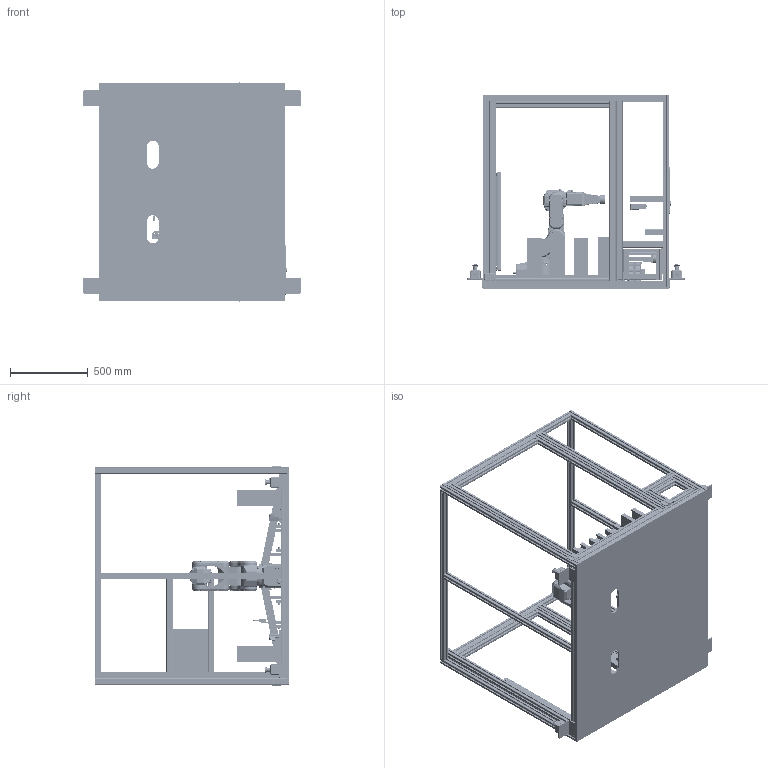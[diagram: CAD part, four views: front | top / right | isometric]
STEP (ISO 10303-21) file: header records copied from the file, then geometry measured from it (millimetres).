
FILE_DESCRIPTION (( 'STEP AP214' ), '1' );
FILE_NAME ('MK1.STEP', '2022-12-01T01:34:54', ( '' ), ( '' ), 'SwSTEP 2.0', 'SolidWorks 2022', '' );
FILE_SCHEMA (( 'AUTOMOTIVE_DESIGN' ));
Length unit declared in the file: centimetre
Products named in the file (53): Side_61.5; PLC Line_XLong; hinge; FusilesTower; PalletTowerAssem; Part5; Schneider XALK178 emergency switch; Alumminum extrusion_16.5-top; Part7; Screen; Alumminum extrusion_23; Cut-Extrude6; Base plate; Side; Towel_Pale; Kleine alumminum extrusion; Alumminum extrusion_112; PLC Line_Long; Alumminum extrusion_11.5; MK1; C3_A600S_ASM2; Finger; SENSOR SICK WTB4-3P2161_OFF; Alumminum extrusion_132; GL-R32H_R_______; Part2; Alumminum extrusion_13.5; Axis; Sensor; Schneider XALK178 emergency switch , avec flech vert reglo_D‚faut; 16 rollers; Top banda; Part4; Part6; Fuse; Alumminum extrusion_17; fuse_tower; Alumminum extrusion_20; Part3; Alumminum extrusion_26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
Assembly tree (278 placements, depth 3):
  MK1
    Base plate
    Alumminum extrusion_112  x4
    Alumminum extrusion_124  x5
    Alumminum extrusion_132  x4
    Alumminum extrusion_116  x8
    Alumminum extrusion_26  x2
    Alumminum extrusion_64  x2
    Alumminum extrusion_21
    Alumminum extrusion_11.5
    Alumminum extrusion_23
    Alumminum extrusion_73  x4
    hinge  x8
    Alumminum extrusion_17  x4
    Alumminum extrusion_20  x4
    Screen
    Button Base  x4
    Schneider XALK178 emergency switch , avec flech vert reglo_D‚faut
    Schneider XALK178 emergency switch  x3
    camera SICK VISION Inspector  I-60
    SENSOR SICK WTB4-3P2161_OFF  x6
    GL-R32H_R_______  x2
    C3_A600S_ASM2
    Sensor  x8
    Kleine alumminum extrusion  x10
    Alumminum extrusion_16.5-top  x2
    Alumminum extrusion_13.5  x2
    Top banda
    Side  x4
    Side_61.5  x10
    16 rollers  x80
    Axis  x20
    fuse_tower  x3
    FusilesTower  x3
      fuse_tower
      Fuse
    PLC Line_Long  x6
    PLC Line_XLong  x2
    Towel_Pale
    PalletTowerAssem
      Towel_Pale
      Pallet  x12
    Palet guide  x12
    Pallet
    Aluminum Base
    Cut-Extrude6  x2
    Griper Body
    Finger  x2
    Part1
    Part2
    Part3
    Part4
    Part5_Vertical
    Part6
    Part7
    Part5
Bounding box: 1400 x 1250 x 1419.98 mm (x, y, z)
Volume: 53254425 mm3; surface area: 25971841.4 mm2
Topology: 370 solids, 394 shells, 29303 faces, 76830 edges, 49420 vertices
Faces by surface type: plane 16292, cylinder 8517, torus 2215, bspline 1347, cone 766, sphere 166
Entity records: 687604 total; most frequent: CARTESIAN_POINT 207371, ORIENTED_EDGE 74775, DIRECTION 66604, EDGE_CURVE 37448, LINE 25670, VECTOR 25670, VERTEX_POINT 24267, AXIS2_PLACEMENT_3D 20467
